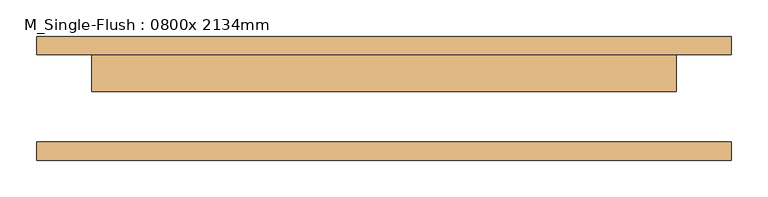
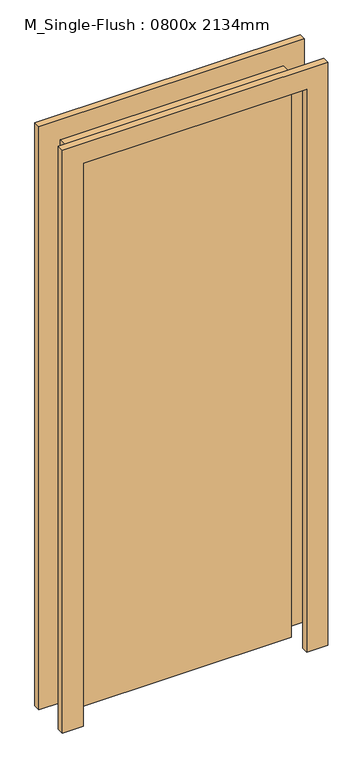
"""IFC4 building model written with IfcOpenShell, lengths in millimetres: door geometry, M_Single-Flush : 0800x 2134mm."""

from ifc_helpers import new_model, si_unit, frame, origin, origin_with_axes, place, context, project, spatial, polyline, outline, extrude, source, transform, mapped, element, save


def m_single_flush_0800x_2134mm_6a6e6414(model_context):
    return source(origin(), model_context, "Body", "SweptSolid", [
        extrude(outline(polyline([(400.0, 9.0), (-400.0, 9.0), (-400.0, 60.0), (400.0, 60.0), (400.0, 9.0)])), origin_with_axes(), (0.0, 0.0, 1.0), 2134.0),
        extrude(outline(polyline([(2210.0, -476.0), (0.0, -476.0), (0.0, -400.0), (2134.0, -400.0), (2134.0, 400.0), (0.0, 400.0), (0.0, 476.0), (2210.0, 476.0), (2210.0, -476.0)])), frame((0.0, 60.0, 0.0), z_axis=(0.0, 1.0, 0.0), x_axis=(0.0, 0.0, 1.0)), (0.0, 0.0, 1.0), 25.0),
        extrude(outline(polyline([(2210.0, 476.0), (2210.0, -476.0), (0.0, -476.0), (0.0, -400.0), (2134.0, -400.0), (2134.0, 400.0), (0.0, 400.0), (0.0, 476.0), (2210.0, 476.0)])), frame((0.0, -85.0, 0.0), z_axis=(0.0, 1.0, 0.0), x_axis=(0.0, 0.0, 1.0)), (0.0, 0.0, 1.0), 25.0),
    ])


if __name__ == "__main__":
    model = new_model("IFC4")
    model_context = context("Model", 3, world=origin())
    ifc_project = project(units=[si_unit("LENGTHUNIT", "METRE", prefix="MILLI")], contexts=[model_context])
    site = spatial("IfcSite", under=ifc_project)
    building = spatial("IfcBuilding", under=site)
    placement = place(None, origin())
    m_single_flush_0800x_2134mm_shape = m_single_flush_0800x_2134mm_6a6e6414(model_context)
    element("IfcDoor", 1, ObjectType="M_Single-Flush : 0800x 2134mm", at=placement, inside=building, context=model_context, shape_type="MappedRepresentation", body=[
        mapped(m_single_flush_0800x_2134mm_shape, transform((0.0, 0.0, 0.0), x_axis=(1.0, 0.0, 0.0), y_axis=(0.0, 1.0, 0.0), z_axis=(0.0, 0.0, 1.0))),
    ])
    save(model, "model.ifc")
